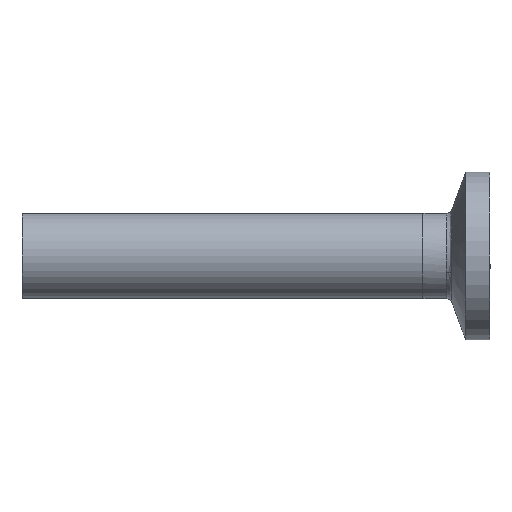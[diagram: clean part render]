
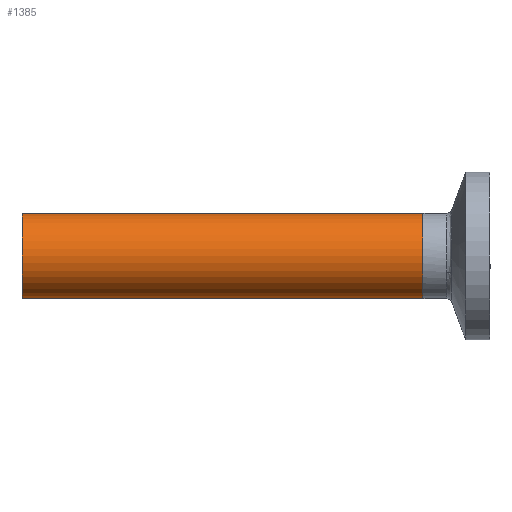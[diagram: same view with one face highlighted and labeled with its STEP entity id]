
A CAD part, front view. The second image highlights one B-rep face of the part: STEP entity #1385.
In plain terms, the highlighted cylindrical face has radius 6.35 mm (diameter 12.7 mm), a partial arc.
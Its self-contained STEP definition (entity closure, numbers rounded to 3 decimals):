
#26 = CARTESIAN_POINT ( 'NONE',  ( 30.161, 0., -6.35 ) ) ;
#38 = CARTESIAN_POINT ( 'NONE',  ( 12.2, 0., -6.35 ) ) ;
#100 = AXIS2_PLACEMENT_3D ( 'NONE', #1145, #224, #542 ) ;
#148 = VECTOR ( 'NONE', #300, 1000. ) ;
#217 = LINE ( 'NONE', #864, #1228 ) ;
#224 = DIRECTION ( 'NONE',  ( -1., 0., 0. ) ) ;
#283 = VERTEX_POINT ( 'NONE', #1406 ) ;
#300 = DIRECTION ( 'NONE',  ( -1., 0., 0. ) ) ;
#302 = EDGE_LOOP ( 'NONE', ( #1112, #1726, #997, #738, #1647, #718 ) ) ;
#309 = VECTOR ( 'NONE', #552, 1000. ) ;
#349 = AXIS2_PLACEMENT_3D ( 'NONE', #1161, #1090, #1077 ) ;
#373 = CARTESIAN_POINT ( 'NONE',  ( -47.6, 0., -6.35 ) ) ;
#480 = EDGE_CURVE ( 'NONE', #1496, #1085, #1501, .T. ) ;
#542 = DIRECTION ( 'NONE',  ( 0., 0., 1. ) ) ;
#552 = DIRECTION ( 'NONE',  ( -1., 0., 0. ) ) ;
#561 = VERTEX_POINT ( 'NONE', #373 ) ;
#633 = VERTEX_POINT ( 'NONE', #38 ) ;
#665 = EDGE_CURVE ( 'NONE', #1085, #561, #1791, .T. ) ;
#667 = CARTESIAN_POINT ( 'NONE',  ( 30.161, 0., 6.35 ) ) ;
#706 = VERTEX_POINT ( 'NONE', #1021 ) ;
#718 = ORIENTED_EDGE ( 'NONE', *, *, #1144, .F. ) ;
#738 = ORIENTED_EDGE ( 'NONE', *, *, #480, .T. ) ;
#758 = VECTOR ( 'NONE', #761, 1000. ) ;
#761 = DIRECTION ( 'NONE',  ( -1., 0., 0. ) ) ;
#788 = EDGE_CURVE ( 'NONE', #633, #706, #217, .T. ) ;
#798 = CARTESIAN_POINT ( 'NONE',  ( 12.2, 0., 0. ) ) ;
#805 = FACE_OUTER_BOUND ( 'NONE', #302, .T. ) ;
#808 = DIRECTION ( 'NONE',  ( -1., 0., 0. ) ) ;
#823 = DIRECTION ( 'NONE',  ( 0., 0., 1. ) ) ;
#831 = EDGE_CURVE ( 'NONE', #283, #1496, #1622, .T. ) ;
#864 = CARTESIAN_POINT ( 'NONE',  ( 30.161, 0., -6.35 ) ) ;
#997 = ORIENTED_EDGE ( 'NONE', *, *, #831, .T. ) ;
#1002 = CARTESIAN_POINT ( 'NONE',  ( -47.6, 0., 6.35 ) ) ;
#1014 = CYLINDRICAL_SURFACE ( 'NONE', #100, 6.35 ) ;
#1021 = CARTESIAN_POINT ( 'NONE',  ( 0., 0., -6.35 ) ) ;
#1036 = LINE ( 'NONE', #26, #309 ) ;
#1077 = DIRECTION ( 'NONE',  ( 0., 0., 1. ) ) ;
#1082 = DIRECTION ( 'NONE',  ( -1., 0., 0. ) ) ;
#1085 = VERTEX_POINT ( 'NONE', #1002 ) ;
#1090 = DIRECTION ( 'NONE',  ( 1., 0., 0. ) ) ;
#1106 = CARTESIAN_POINT ( 'NONE',  ( 0., 0., 6.35 ) ) ;
#1112 = ORIENTED_EDGE ( 'NONE', *, *, #788, .F. ) ;
#1144 = EDGE_CURVE ( 'NONE', #706, #561, #1036, .T. ) ;
#1145 = CARTESIAN_POINT ( 'NONE',  ( 30.161, 0., 0. ) ) ;
#1161 = CARTESIAN_POINT ( 'NONE',  ( -47.6, 0., 0. ) ) ;
#1188 = EDGE_CURVE ( 'NONE', #633, #283, #1734, .T. ) ;
#1228 = VECTOR ( 'NONE', #1082, 1000. ) ;
#1385 = ADVANCED_FACE ( 'NONE', ( #805 ), #1014, .T. ) ;
#1406 = CARTESIAN_POINT ( 'NONE',  ( 12.2, 0., 6.35 ) ) ;
#1469 = CARTESIAN_POINT ( 'NONE',  ( 30.161, 0., 6.35 ) ) ;
#1496 = VERTEX_POINT ( 'NONE', #1106 ) ;
#1501 = LINE ( 'NONE', #667, #758 ) ;
#1622 = LINE ( 'NONE', #1469, #148 ) ;
#1647 = ORIENTED_EDGE ( 'NONE', *, *, #665, .T. ) ;
#1654 = AXIS2_PLACEMENT_3D ( 'NONE', #798, #808, #823 ) ;
#1726 = ORIENTED_EDGE ( 'NONE', *, *, #1188, .T. ) ;
#1734 = CIRCLE ( 'NONE', #1654, 6.35 ) ;
#1791 = CIRCLE ( 'NONE', #349, 6.35 ) ;
